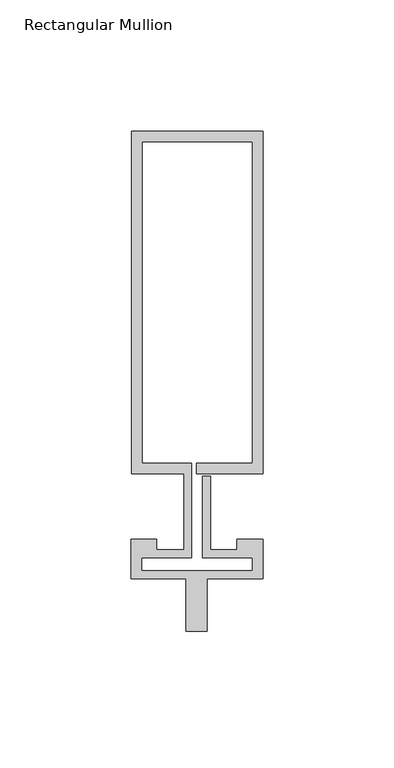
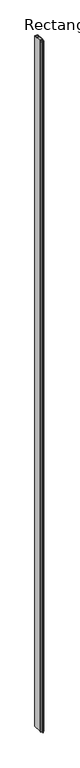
"""IFC4 building model written with IfcOpenShell, lengths in millimetres: member geometry, Rectangular Mullion : Reynaers_CW-50_Mullion-Transom_Horizontal_130.4mm_Facecap-06A."""

from ifc_helpers import new_model, si_unit, frame, origin, place, context, project, spatial, polyline, outline, extrude, source, transform, mapped, element, save


def rectangular_mullion_c2358fa2(model_context):
    return source(origin(), model_context, "Body", "SweptSolid", [
        extrude(outline(polyline([(-24.8004059, 142.9), (25.1995941, 142.9), (25.1995941, 12.5), (0.0, 12.5), (0.0, 16.5), (21.1995941, 16.5), (21.1995941, 138.9), (-20.8004059, 138.9), (-20.8004059, 16.5), (-1.9004059, 16.5), (-1.9004059, -19.5), (-20.994845, -19.5), (-20.994845, -24.4191338), (21.1995941, -24.4191338), (21.1995941, -19.5), (2.2995941, -19.5), (2.2995941, 11.5), (5.2995941, 11.5), (5.2995941, -16.5), (15.2996495, -16.5), (15.2996495, -12.5), (25.1995941, -12.5), (25.1995941, -27.5), (4.004855, -27.5), (4.004855, -47.5), (-3.995145, -47.5), (-3.995145, -27.5), (-24.994845, -27.5), (-24.994845, -12.5), (-15.2996495, -12.5), (-15.2996495, -16.5), (-4.9004059, -16.5), (-4.9004059, 12.5), (-24.8004059, 12.5), (-24.8004059, 142.9)])), frame((0.0, 0.0, -12000.0), z_axis=(0.0, 0.0, 1.0), x_axis=(1.0, 0.0, 0.0)), (0.0, 0.0, 1.0), 12000.0),
    ])


if __name__ == "__main__":
    model = new_model("IFC4")
    model_context = context("Model", 3, world=origin())
    ifc_project = project(units=[si_unit("LENGTHUNIT", "METRE", prefix="MILLI")], contexts=[model_context])
    site = spatial("IfcSite", under=ifc_project)
    building = spatial("IfcBuilding", under=site)
    placement = place(None, origin())
    rectangular_mullion_shape = rectangular_mullion_c2358fa2(model_context)
    element("IfcMember", 1, ObjectType="Rectangular Mullion : Reynaers_CW-50_Mullion-Transom_Horizontal_130.4mm_Facecap-06A", at=placement, inside=building, context=model_context, shape_type="MappedRepresentation", body=[
        mapped(rectangular_mullion_shape, transform((0.0, 0.0, 0.0), x_axis=(1.0, 0.0, 0.0), y_axis=(0.0, 1.0, 0.0), z_axis=(0.0, 0.0, 1.0))),
    ])
    save(model, "model.ifc")
